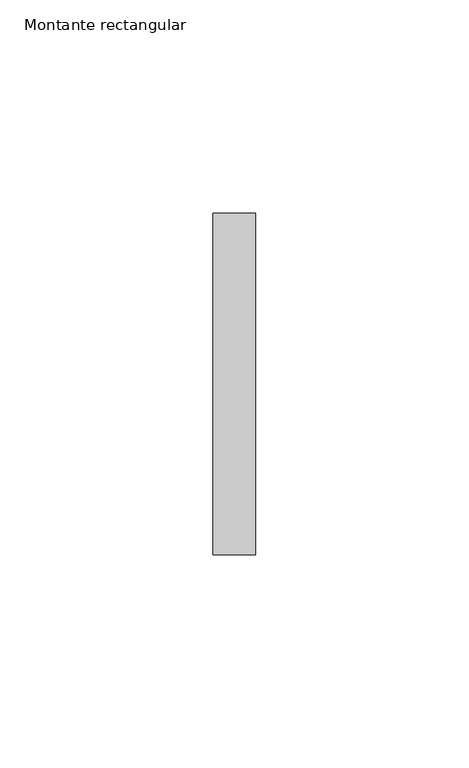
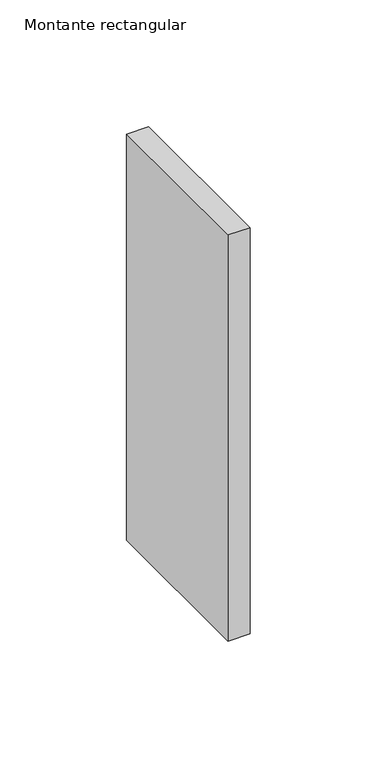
"""IFC4 building model written with IfcOpenShell, lengths in millimetres: member geometry, Montante rectangular : Junta de paves."""

from ifc_helpers import new_model, si_unit, frame, origin, place, context, project, spatial, polyline, outline, extrude, source, transform, mapped, element, save


def montante_rectangular_b9ac4352(model_context):
    return source(origin(), model_context, "Body", "SweptSolid", [
        extrude(outline(polyline([(0.0, 40.0), (0.0, -40.0), (-10.0, -40.0), (-10.0, 40.0), (0.0, 40.0)])), frame((0.0, 0.0, -195.5555556), z_axis=(0.0, 0.0, 1.0), x_axis=(1.0, 0.0, 0.0)), (0.0, 0.0, 1.0), 195.5555556),
    ])


if __name__ == "__main__":
    model = new_model("IFC4")
    model_context = context("Model", 3, world=origin())
    ifc_project = project(units=[si_unit("LENGTHUNIT", "METRE", prefix="MILLI")], contexts=[model_context])
    site = spatial("IfcSite", under=ifc_project)
    building = spatial("IfcBuilding", under=site)
    placement = place(None, origin())
    montante_rectangular_shape = montante_rectangular_b9ac4352(model_context)
    element("IfcMember", 1, ObjectType="Montante rectangular : Junta de paves", at=placement, inside=building, context=model_context, shape_type="MappedRepresentation", body=[
        mapped(montante_rectangular_shape, transform((0.0, 0.0, 0.0), x_axis=(1.0, 0.0, 0.0), y_axis=(0.0, 1.0, 0.0), z_axis=(0.0, 0.0, 1.0))),
    ])
    save(model, "model.ifc")
